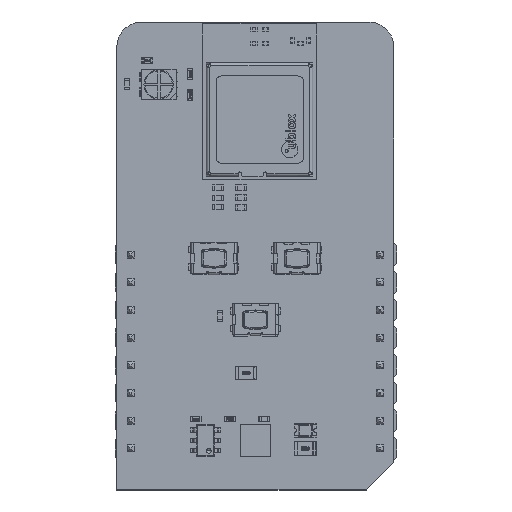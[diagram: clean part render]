
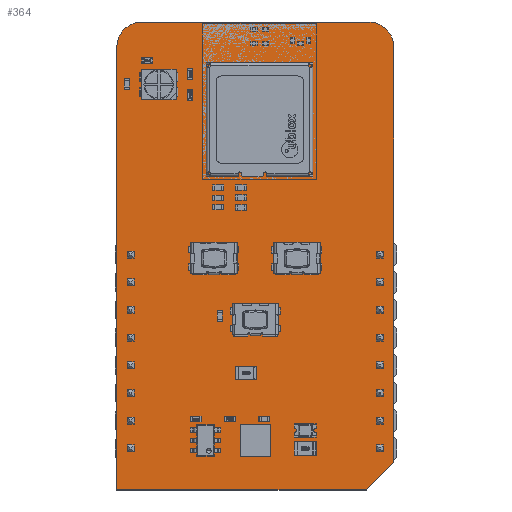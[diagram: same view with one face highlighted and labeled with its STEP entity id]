
A CAD part, top view. The second image highlights one B-rep face of the part: STEP entity #364.
In plain terms, the highlighted planar face has unit normal (0, 0, 1).
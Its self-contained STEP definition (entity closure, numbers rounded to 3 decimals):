
#135 = VERTEX_POINT('',#136);
#136 = CARTESIAN_POINT('',(-1.27,-3.81,0.));
#142 = EDGE_CURVE('',#135,#143,#145,.T.);
#143 = VERTEX_POINT('',#144);
#144 = CARTESIAN_POINT('',(-1.27,36.83,0.));
#145 = LINE('',#146,#147);
#146 = CARTESIAN_POINT('',(-1.27,-3.81,0.));
#147 = VECTOR('',#148,1.);
#148 = DIRECTION('',(0.,1.,0.));
#173 = EDGE_CURVE('',#143,#174,#176,.T.);
#174 = VERTEX_POINT('',#175);
#175 = CARTESIAN_POINT('',(1.016,39.116,0.));
#176 = CIRCLE('',#177,2.288);
#177 = AXIS2_PLACEMENT_3D('',#178,#179,#180);
#178 = CARTESIAN_POINT('',(1.018,36.828,0.));
#179 = DIRECTION('',(0.,0.,-1.));
#180 = DIRECTION('',(-1.,0.001,0.));
#206 = EDGE_CURVE('',#174,#207,#209,.T.);
#207 = VERTEX_POINT('',#208);
#208 = CARTESIAN_POINT('',(21.844,39.116,0.));
#209 = LINE('',#210,#211);
#210 = CARTESIAN_POINT('',(1.016,39.116,0.));
#211 = VECTOR('',#212,1.);
#212 = DIRECTION('',(1.,0.,0.));
#237 = EDGE_CURVE('',#207,#238,#240,.T.);
#238 = VERTEX_POINT('',#239);
#239 = CARTESIAN_POINT('',(24.13,36.83,0.));
#240 = CIRCLE('',#241,2.288);
#241 = AXIS2_PLACEMENT_3D('',#242,#243,#244);
#242 = CARTESIAN_POINT('',(21.842,36.828,0.));
#243 = DIRECTION('',(0.,0.,-1.));
#244 = DIRECTION('',(0.001,1.,0.));
#270 = EDGE_CURVE('',#238,#271,#273,.T.);
#271 = VERTEX_POINT('',#272);
#272 = CARTESIAN_POINT('',(24.13,-1.27,0.));
#273 = LINE('',#274,#275);
#274 = CARTESIAN_POINT('',(24.13,36.83,0.));
#275 = VECTOR('',#276,1.);
#276 = DIRECTION('',(0.,-1.,0.));
#301 = EDGE_CURVE('',#271,#302,#304,.T.);
#302 = VERTEX_POINT('',#303);
#303 = CARTESIAN_POINT('',(21.59,-3.81,0.));
#304 = LINE('',#305,#306);
#305 = CARTESIAN_POINT('',(24.13,-1.27,0.));
#306 = VECTOR('',#307,1.);
#307 = DIRECTION('',(-0.707,-0.707,0.));
#332 = EDGE_CURVE('',#302,#135,#333,.T.);
#333 = LINE('',#334,#335);
#334 = CARTESIAN_POINT('',(21.59,-3.81,0.));
#335 = VECTOR('',#336,1.);
#336 = DIRECTION('',(-1.,0.,0.));
#364 = ADVANCED_FACE('',(#365),#374,.T.);
#365 = FACE_BOUND('',#366,.F.);
#366 = EDGE_LOOP('',(#367,#368,#369,#370,#371,#372,#373));
#367 = ORIENTED_EDGE('',*,*,#142,.T.);
#368 = ORIENTED_EDGE('',*,*,#173,.T.);
#369 = ORIENTED_EDGE('',*,*,#206,.T.);
#370 = ORIENTED_EDGE('',*,*,#237,.T.);
#371 = ORIENTED_EDGE('',*,*,#270,.T.);
#372 = ORIENTED_EDGE('',*,*,#301,.T.);
#373 = ORIENTED_EDGE('',*,*,#332,.T.);
#374 = PLANE('',#375);
#375 = AXIS2_PLACEMENT_3D('',#376,#377,#378);
#376 = CARTESIAN_POINT('',(-1.27,-3.81,0.));
#377 = DIRECTION('',(0.,0.,1.));
#378 = DIRECTION('',(1.,0.,0.));
